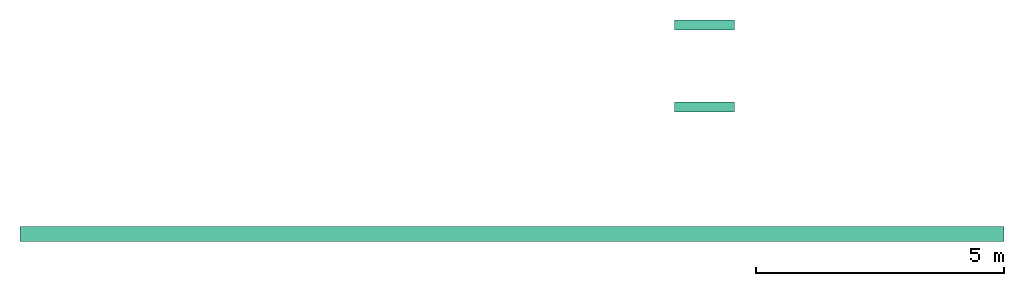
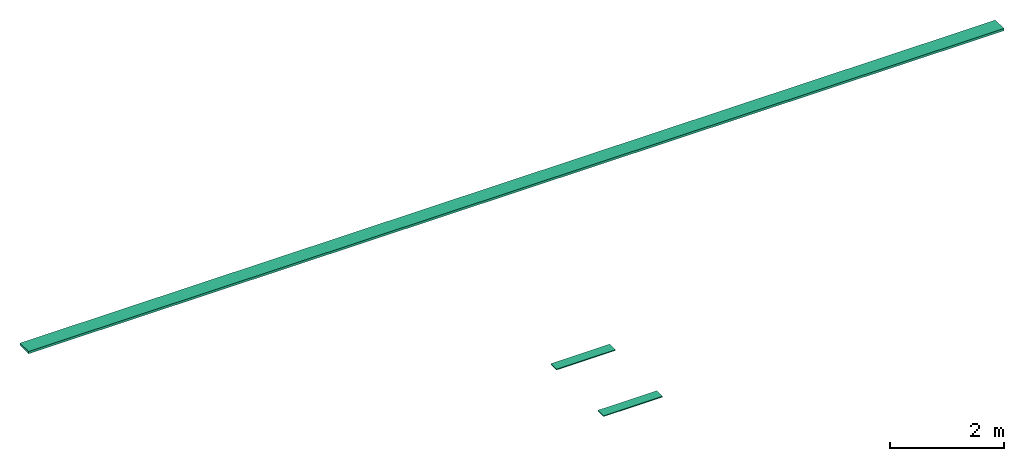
# One storey: 2 flow terminals, 1 flow segment.
"""IFC2X3 building model written with IfcOpenShell, lengths in metres."""

import ifcopenshell
import ifcopenshell.guid

model = None  # the IFC model being written
_history = None  # IfcOwnerHistory: only IFC2X3 demands one
_inside = {}  # id of a spatial element -> (the spatial element, [elements in it])
_under = {}  # id of a project, library or spatial element -> (it, [spatial elements below it])
_declared = {}  # id of a project -> (the project, [libraries it declares])
_typed = {}  # id of a type object -> (the type object, [elements of that type])
_made_of = {}  # id of a material, layer set ... -> (it, [elements and type objects made of it])


def new_model(schema):
    """Start an empty IFC model of exactly this schema.

    Asked for "IFC4X3", IfcOpenShell would pick the latest addendum, in which some entities
    have other attributes; the version numbers below select the first issue.
    IFC2X3 requires an IfcOwnerHistory on every rooted entity: one is made here for all.
    """
    global model, _history
    if schema == "IFC4X3":
        model = ifcopenshell.file(schema_version=(4, 3, 0, 0))
    else:
        model = ifcopenshell.file(schema=schema)
    _inside.clear()
    _under.clear()
    _declared.clear()
    _typed.clear()
    _made_of.clear()
    _history = None
    if model.schema == "IFC2X3":
        org = make("IfcOrganization", Name="unknown")
        user = make(
            "IfcPersonAndOrganization",
            ThePerson=make("IfcPerson", FamilyName="unknown"),
            TheOrganization=org,
        )
        app = make(
            "IfcApplication",
            ApplicationDeveloper=org,
            Version="unknown",
            ApplicationFullName="unknown",
            ApplicationIdentifier="unknown",
        )
        _history = make(
            "IfcOwnerHistory",
            OwningUser=user,
            OwningApplication=app,
            ChangeAction="ADDED",
            CreationDate=0,
        )
    return model


def make(cls, **values):
    """One entity of the class cls with the attributes given. An attribute that is None is left unset."""
    return model.create_entity(
        cls, **{name: value for name, value in values.items() if value is not None}
    )


def entity(cls, *values):
    """Any entity or typed value of the class cls, its attributes in the order of the schema. None: left unset."""
    e = model.create_entity(cls)
    for i, value in enumerate(values):
        if value is not None:
            e[i] = value
    return e


def rooted(cls, **values):
    """An entity with a GlobalId (a new one), such as an element, a storey or a relation."""
    return make(cls, GlobalId=ifcopenshell.guid.new(), OwnerHistory=_history, **values)


def si_unit(unit_type, name, prefix=None):
    """IfcSIUnit, for example si_unit("LENGTHUNIT", "METRE", prefix="MILLI")."""
    return make("IfcSIUnit", UnitType=unit_type, Prefix=prefix, Name=name)


def converted_unit(unit_type, name, factor, base, dimensions=None, offset=None):
    """IfcConversionBasedUnit, such as the inch: factor (a typed value) times the base unit."""
    return make(
        "IfcConversionBasedUnit"
        if offset is None
        else "IfcConversionBasedUnitWithOffset",
        ConversionOffset=offset,
        Dimensions=None
        if dimensions is None
        else entity("IfcDimensionalExponents", *dimensions),
        UnitType=unit_type,
        Name=name,
        ConversionFactor=make(
            "IfcMeasureWithUnit", ValueComponent=factor, UnitComponent=base
        ),
    )


def derived_unit(unit_type, elements):
    """IfcDerivedUnit: a product of units, each with its exponent."""
    return make(
        "IfcDerivedUnit",
        Elements=[
            make("IfcDerivedUnitElement", Unit=unit, Exponent=power)
            for unit, power in elements
        ],
        UnitType=unit_type,
    )


def assignment(units):
    """IfcUnitAssignment: the units of a project."""
    return None if units is None else make("IfcUnitAssignment", Units=units)


def point(xyz):
    """IfcCartesianPoint."""
    return None if xyz is None else make("IfcCartesianPoint", Coordinates=xyz)


def direction(xyz):
    """IfcDirection."""
    return None if xyz is None else make("IfcDirection", DirectionRatios=xyz)


def frame(location, z_axis=None, x_axis=None):
    """IfcAxis2Placement3D, a coordinate frame: its origin and axes. An axis left out is left unset."""
    return make(
        "IfcAxis2Placement3D",
        Location=point(location),
        Axis=direction(z_axis),
        RefDirection=direction(x_axis),
    )


def frame_2d(location, x_axis=None):
    """IfcAxis2Placement2D, a coordinate frame in the plane: its origin and x axis."""
    return make(
        "IfcAxis2Placement2D", Location=point(location), RefDirection=direction(x_axis)
    )


def origin():
    """The frame at (0, 0, 0) with its axes left unset."""
    return frame((0.0, 0.0, 0.0))


def origin_2d_with_axis():
    """The frame at (0, 0) in the plane with the x axis (1, 0) written out."""
    return frame_2d((0.0, 0.0), x_axis=(1.0, 0.0))


def place(relative_to, where):
    """IfcLocalPlacement: puts the frame where relative to a parent placement (None: the world)."""
    return make(
        "IfcLocalPlacement", PlacementRelTo=relative_to, RelativePlacement=where
    )


def context(
    kind, dimensions, precision=None, world=None, true_north=None, identifier=None
):
    """IfcGeometricRepresentationContext, for example the 3D "Model" context."""
    return make(
        "IfcGeometricRepresentationContext",
        ContextIdentifier=identifier,
        ContextType=kind,
        CoordinateSpaceDimension=dimensions,
        Precision=precision,
        WorldCoordinateSystem=world,
        TrueNorth=true_north,
    )


def subcontext(parent, identifier, kind, view, scale=None):
    """IfcGeometricRepresentationSubContext, for example "Body" below "Model"."""
    return make(
        "IfcGeometricRepresentationSubContext",
        ContextIdentifier=identifier,
        ContextType=kind,
        ParentContext=parent,
        TargetScale=scale,
        TargetView=view,
    )


def project(units=None, contexts=None):
    """IfcProject with its units and contexts."""
    return rooted(
        "IfcProject",
        Name="project",
        RepresentationContexts=contexts,
        UnitsInContext=assignment(units),
    )


def spatial(cls, under=None, at=None, **own):
    """A site, building, storey or space (cls), placed at a placement, below another one or the project."""
    s = rooted(cls, ObjectPlacement=at, **own)
    if under is not None:
        _under.setdefault(under.id(), (under, []))[1].append(s)
    return s


def profile(cls, at=None, kind="AREA", **sizes):
    """A parametric profile (cls). Its sizes go by their IFC names, for example OverallWidth=200.0."""
    return make(cls, ProfileType=kind, Position=at, **sizes)


def rectangle(**sizes):
    """IfcRectangleProfileDef."""
    return profile("IfcRectangleProfileDef", **sizes)


def extrude(swept, where, along, depth):
    """IfcExtrudedAreaSolid: the profile swept, set in the frame where, extruded along a direction by depth."""
    return make(
        "IfcExtrudedAreaSolid",
        SweptArea=swept,
        Position=where,
        ExtrudedDirection=direction(along),
        Depth=depth,
    )


def shape(context_of_items, identifier, shape_type, items):
    """IfcShapeRepresentation: the items that make up one representation, for example the "Body"."""
    return make(
        "IfcShapeRepresentation",
        ContextOfItems=context_of_items,
        RepresentationIdentifier=identifier,
        RepresentationType=shape_type,
        Items=items,
    )


def source(mapping_origin, context_of_items, identifier, shape_type, items):
    """IfcRepresentationMap: a shape defined once, which mapped items show again and again."""
    return make(
        "IfcRepresentationMap",
        MappingOrigin=mapping_origin,
        MappedRepresentation=shape(context_of_items, identifier, shape_type, items),
    )


def transform(
    local_origin,
    x_axis=None,
    y_axis=None,
    z_axis=None,
    scale=None,
    scale2=None,
    scale3=None,
    uniform=True,
):
    """IfcCartesianTransformationOperator3D, or its non-uniform kind. x_axis, y_axis, z_axis: its Axis1, 2, 3."""
    if uniform:
        return make(
            "IfcCartesianTransformationOperator3D",
            Axis1=direction(x_axis),
            Axis2=direction(y_axis),
            LocalOrigin=point(local_origin),
            Scale=scale,
            Axis3=direction(z_axis),
        )
    return make(
        "IfcCartesianTransformationOperator3DnonUniform",
        Axis1=direction(x_axis),
        Axis2=direction(y_axis),
        LocalOrigin=point(local_origin),
        Scale=scale,
        Axis3=direction(z_axis),
        Scale2=scale2,
        Scale3=scale3,
    )


def mapped(mapping_source, mapping_target):
    """IfcMappedItem: shows the shape of a source again, moved by a transform."""
    return make(
        "IfcMappedItem", MappingSource=mapping_source, MappingTarget=mapping_target
    )


def made_of(thing, what):
    """Note that an element or type object is made of a material, layer set ...; save() writes the relation."""
    if what is not None:
        _made_of.setdefault(what.id(), (what, []))[1].append(thing)
    return thing


def type_object(cls, material=None, **own):
    """A type object (cls), such as IfcWallType, which elements share."""
    return made_of(rooted(cls, **own), material)


def type_shapes(of_type, sources):
    """Give a type object the sources (RepresentationMaps) that its elements show as mapped items."""
    of_type.RepresentationMaps = sources


def element(
    cls,
    number,
    at=None,
    inside=None,
    cuts=None,
    type_object=None,
    material=None,
    context=None,
    identifier="Body",
    shape_type=None,
    held_by="IfcProductDefinitionShape",
    body=None,
    shapes=None,
    **own,
):
    """One element of the class cls, such as IfcWall. Its Tag is "e" and its number.

    at: its placement. inside: the storey or other place that contains it. cuts: it is an
    opening in that element (IfcRelVoidsElement). A single representation is given by context,
    identifier, shape_type and body (its items); several are given by shapes. held_by: the class
    of the entity that holds the representations. save() writes the other relations.
    """
    e = rooted(cls, Tag="e%d" % number, ObjectPlacement=at, **own)
    if body is not None:
        shapes = [shape(context, identifier, shape_type, body)]
    if shapes is not None:
        e.Representation = make(held_by, Representations=shapes)
    if inside is not None:
        _inside.setdefault(inside.id(), (inside, []))[1].append(e)
    if cuts is not None:
        rooted(
            "IfcRelVoidsElement", RelatingBuildingElement=cuts, RelatedOpeningElement=e
        )
    if type_object is not None:
        _typed.setdefault(type_object.id(), (type_object, []))[1].append(e)
    return made_of(e, material)


def aggregate(whole, parts):
    """IfcRelAggregates: a whole, such as a stair, and the parts it consists of."""
    return rooted("IfcRelAggregates", RelatingObject=whole, RelatedObjects=parts)


def save(model, path):
    """Write the relations noted so far, then the file.

    IfcRelAggregates (storeys below a building ...), IfcRelContainedInSpatialStructure (elements
    in a storey), IfcRelDefinesByType, IfcRelAssociatesMaterial and IfcRelDeclares: one each for
    every whole, place, type object, material and project.
    """
    for whole, parts in _under.values():
        aggregate(whole, parts)
    for where, things in _inside.values():
        rooted(
            "IfcRelContainedInSpatialStructure",
            RelatedElements=things,
            RelatingStructure=where,
        )
    for kind, things in _typed.values():
        rooted("IfcRelDefinesByType", RelatedObjects=things, RelatingType=kind)
    for what, things in _made_of.values():
        rooted("IfcRelAssociatesMaterial", RelatedObjects=things, RelatingMaterial=what)
    for by, libraries in _declared.values():
        rooted("IfcRelDeclares", RelatingContext=by, RelatedDefinitions=libraries)
    model.write(path)


model = new_model("IFC2X3")

# Units and contexts
model_context = context("Model", 3, precision=1e-05, world=origin(), true_north=direction((6.12303176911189e-17, 1.0)))
body_context = subcontext(model_context, "Body", "Model", "MODEL_VIEW")
ifc_project = project(units=[si_unit("LENGTHUNIT", "METRE"), si_unit("AREAUNIT", "SQUARE_METRE"), si_unit("VOLUMEUNIT", "CUBIC_METRE"), converted_unit("PLANEANGLEUNIT", "DEGREE", entity("IfcRatioMeasure", 0.0174532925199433), si_unit("PLANEANGLEUNIT", "RADIAN"), dimensions=[0, 0, 0, 0, 0, 0, 0]), si_unit("MASSUNIT", "GRAM", prefix="KILO"), derived_unit("MASSDENSITYUNIT", [(si_unit("MASSUNIT", "GRAM", prefix="KILO"), 1), (si_unit("LENGTHUNIT", "METRE"), -3)]), si_unit("TIMEUNIT", "SECOND"), si_unit("FREQUENCYUNIT", "HERTZ"), si_unit("THERMODYNAMICTEMPERATUREUNIT", "DEGREE_CELSIUS"), derived_unit("THERMALTRANSMITTANCEUNIT", [(si_unit("MASSUNIT", "GRAM", prefix="KILO"), 1), (si_unit("THERMODYNAMICTEMPERATUREUNIT", "KELVIN"), -1), (si_unit("TIMEUNIT", "SECOND"), -3)]), derived_unit("VOLUMETRICFLOWRATEUNIT", [(si_unit("LENGTHUNIT", "METRE"), 3), (si_unit("TIMEUNIT", "SECOND"), -1)]), si_unit("ELECTRICCURRENTUNIT", "AMPERE"), si_unit("ELECTRICVOLTAGEUNIT", "VOLT"), si_unit("POWERUNIT", "WATT"), si_unit("FORCEUNIT", "NEWTON"), si_unit("ILLUMINANCEUNIT", "LUX"), si_unit("LUMINOUSFLUXUNIT", "LUMEN"), si_unit("LUMINOUSINTENSITYUNIT", "CANDELA"), derived_unit("USERDEFINED", [(si_unit("MASSUNIT", "GRAM", prefix="KILO"), -1), (si_unit("LENGTHUNIT", "METRE"), -2), (si_unit("TIMEUNIT", "SECOND"), 3), (si_unit("LUMINOUSFLUXUNIT", "LUMEN"), 1)]), derived_unit("LINEARVELOCITYUNIT", [(si_unit("LENGTHUNIT", "METRE"), 1), (si_unit("TIMEUNIT", "SECOND"), -1)]), si_unit("PRESSUREUNIT", "PASCAL"), derived_unit("USERDEFINED", [(si_unit("LENGTHUNIT", "METRE"), -2), (si_unit("MASSUNIT", "GRAM", prefix="KILO"), 1), (si_unit("TIMEUNIT", "SECOND"), -2)])], contexts=[model_context])

# Site, building, storey
site_placement = place(None, origin())
site = spatial("IfcSite", under=ifc_project, at=site_placement, Name="Default", CompositionType="ELEMENT")
building_placement = place(site_placement, origin())
building = spatial("IfcBuilding", under=site, at=building_placement, CompositionType="ELEMENT")
storey_placement = place(building_placement, frame((0.0, 0.0, -0.399999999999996)))
storey = spatial("IfcBuildingStorey", under=building, at=storey_placement, Name="S01", CompositionType="ELEMENT", Elevation=-0.399999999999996)

# Flow segment
cable_carrier_segment_type = type_object("IfcCableCarrierSegmentType", Name="Cable Tray with Fittings:Chemins de câbles en treillis_Chemins de câbles en treillis", PredefinedType="NOTDEFINED")
flow_segment_placement = place(storey_placement, origin())
element("IfcFlowSegment", 1, at=flow_segment_placement, inside=storey, type_object=cable_carrier_segment_type, Name="Cable Tray with Fittings:Chemins de câbles en treillis_Chemins de câbles en treillis", ObjectType="Cable Tray with Fittings:Chemins de câbles en treillis_Chemins de câbles en treillis", context=body_context, shape_type="SweptSolid", body=[
    extrude(rectangle(XDim=0.300000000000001, YDim=19.8084730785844, at=frame_2d((0.0, 4.44089209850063e-15), x_axis=(1.0, 0.0))), frame((59.6662012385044, -189.865826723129, 7.47999999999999), z_axis=(0.0, 0.0, 1.0), x_axis=(0.0, -1.0, 0.0)), (0.0, 0.0, 1.0), 0.0499999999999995),
])

# Flow terminals
light_fixture_type = type_object("IfcLightFixtureType", Name="B_Réglete étanche", PredefinedType="NOTDEFINED")
shared_shape = source(origin(), body_context, "Body", "SweptSolid", [
    extrude(rectangle(XDim=0.199999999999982, YDim=1.2, at=origin_2d_with_axis()), frame((0.0, 0.0, 0.0), z_axis=(0.0, 0.0, 1.0), x_axis=(0.0, 1.0, 0.0)), (0.0, 0.0, 1.0), 0.02),
])
type_shapes(light_fixture_type, [shared_shape])
for number, where, z_axis, x_axis in (
    (2, (63.5406087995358, -185.660084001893, -0.0450000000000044), (0.0, 0.0, -1.0), (-1.0, 0.0, 0.0)),
    (3, (63.5406087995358, -187.31167974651, -0.0450000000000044), (0.0, 0.0, -1.0), (-1.0, 0.0, 0.0)),
):
    element("IfcFlowTerminal", number, at=place(storey_placement, frame(where, z_axis=z_axis, x_axis=x_axis)), inside=storey, type_object=light_fixture_type, Name="II_PREF_Type B Réglette étanche:B_Réglete étanche", ObjectType="II_PREF_Type B Réglette étanche:B_Réglete étanche", context=body_context, shape_type="MappedRepresentation", body=[
        mapped(shared_shape, transform((0.0, 0.0, 0.0), scale=1.0)),
    ])

save(model, "model.ifc")
